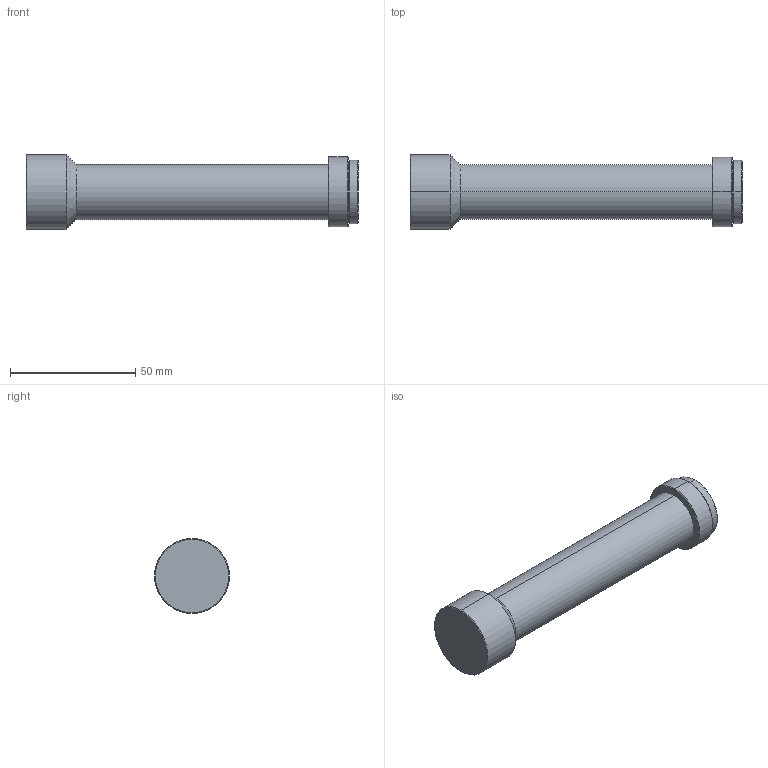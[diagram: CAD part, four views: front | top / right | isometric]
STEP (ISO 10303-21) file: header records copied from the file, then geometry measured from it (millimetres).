
FILE_DESCRIPTION (( 'STEP AP203' ), '1' );
FILE_NAME ('WH03-140A-230.STEP', '2020-08-12T03:05:55', ( 'Windows User' ), ( 'P R C' ), 'SwSTEP 2.0', 'SolidWorks 2017', '' );
FILE_SCHEMA (( 'CONFIG_CONTROL_DESIGN' ));
Length unit declared in the file: millimetre
Products named in the file (1): WH03-140A-230
Bounding box: 132.8 x 30 x 30 mm (x, y, z)
Volume: 58673.5 mm3; surface area: 11531.7 mm2
Topology: 1 solids, 1 shells, 25 faces, 48 edges, 28 vertices
Faces by surface type: cone 10, cylinder 10, plane 5
Entity records: 711 total; most frequent: DIRECTION 128, CARTESIAN_POINT 102, ORIENTED_EDGE 96, AXIS2_PLACEMENT_3D 54, EDGE_CURVE 48, EDGE_LOOP 28, VERTEX_POINT 28, CIRCLE 28
